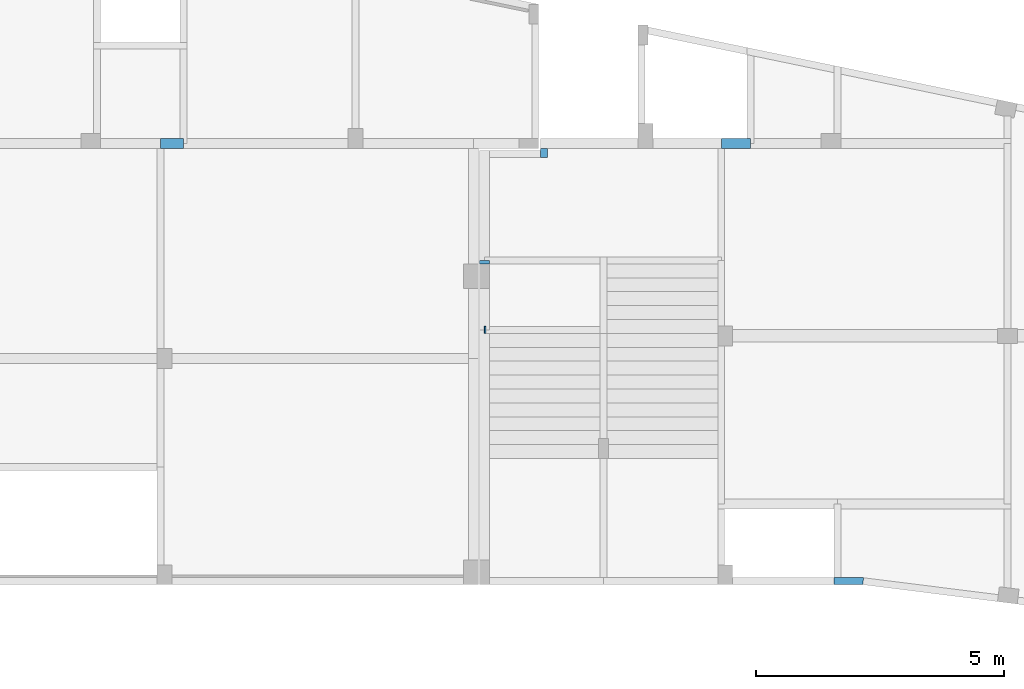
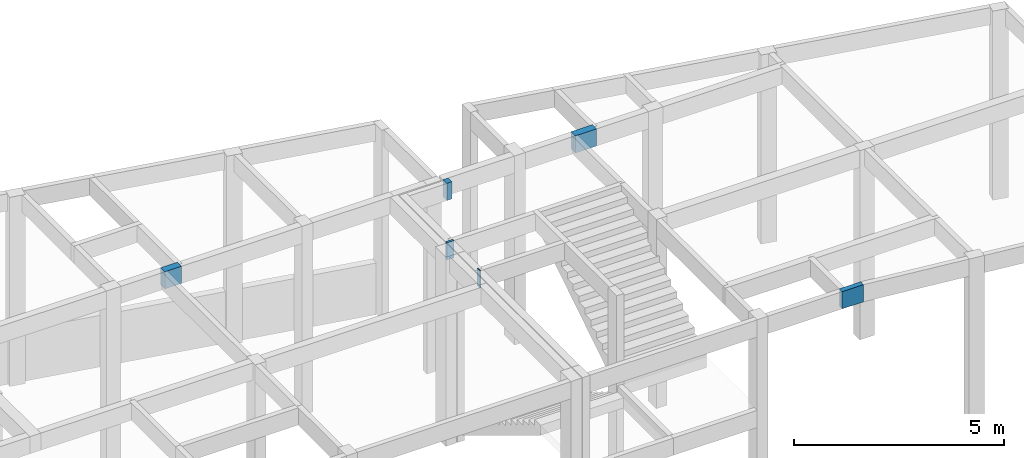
# One storey, part 4 of 8: 6 beams.
"""IFC4 building model written with IfcOpenShell, lengths in centimetres."""

from ifc_helpers import new_model, si_unit, derived_unit, frame, origin, origin_with_axes, origin_2d_with_axis, place, context, project, spatial, rectangle, extrude, clip, halfspace, material, element, save


model = new_model("IFC4")

# Units and contexts
model_context = context("Model", 3, precision=1e-05, world=origin_with_axes(), identifier="Body")
ifc_project = project(units=[si_unit("LENGTHUNIT", "METRE", prefix="CENTI"), si_unit("VOLUMEUNIT", "CUBIC_METRE"), si_unit("AREAUNIT", "SQUARE_METRE"), si_unit("POWERUNIT", "WATT"), si_unit("LUMINOUSFLUXUNIT", "LUMEN"), si_unit("ELECTRICCURRENTUNIT", "AMPERE"), si_unit("PRESSUREUNIT", "PASCAL", prefix="KILO"), si_unit("MASSUNIT", "GRAM", prefix="KILO"), si_unit("PLANEANGLEUNIT", "RADIAN"), derived_unit("VOLUMETRICFLOWRATEUNIT", [(si_unit("LENGTHUNIT", "METRE"), 3), (si_unit("TIMEUNIT", "SECOND"), -1)])], contexts=[model_context])

# Site, building, storey
site_placement = place(None, origin_with_axes())
site = spatial("IfcSite", under=ifc_project, at=site_placement)
building_placement = place(site_placement, origin())
building = spatial("IfcBuilding", under=site, at=building_placement)
placement = place(building_placement, origin_with_axes())
storey_placement = place(placement, frame((0.0, 0.0, 550.0), z_axis=(0.0, 0.0, 1.0), x_axis=(1.0, 0.0, 0.0)))
storey = spatial("IfcBuildingStorey", under=building, at=storey_placement, Name="TÉRREO", CompositionType="ELEMENT", Elevation=550.0)

# Beams
ifc_material = material(Name="Concreto")
beam_1_placement = place(storey_placement, frame((2034.8, -455.9, 0.0), z_axis=(0.0, 0.0, 1.0), x_axis=(1.0, 0.0, 0.0)))
element("IfcBeam", 1, at=beam_1_placement, inside=storey, material=ifc_material, Name="V3", context=model_context, shape_type="SolidModel", body=[
    extrude(rectangle(XDim=20.0, YDim=50.0, at=origin_2d_with_axis()), frame((-23.2, 0.0, -25.0), z_axis=(1.0, 0.0, 0.0), x_axis=(0.0, 1.0, 0.0)), (0.0, 0.0, 1.0), 46.4),
])
beam_2_placement = place(storey_placement, frame((2663.6, -694.6, 0.0), z_axis=(0.0, 0.0, 1.0), x_axis=(1.0, 0.0, 0.0)))
element("IfcBeam", 2, at=beam_2_placement, inside=storey, material=ifc_material, Name="V30", context=model_context, shape_type="SolidModel", body=[
    extrude(rectangle(XDim=20.0, YDim=50.0, at=origin_2d_with_axis()), frame((0.0, -3.5, -25.0), z_axis=(0.0, 1.0, 0.0), x_axis=(1.0, 0.0, 0.0)), (0.0, 0.0, 1.0), 7.0),
])
beam_3_placement = place(storey_placement, frame((2784.0, -474.9, 0.0), z_axis=(0.0, 0.0, 1.0), x_axis=(1.0, 0.0, 0.0)))
element("IfcBeam", 3, at=beam_3_placement, inside=storey, material=ifc_material, Name="V32", context=model_context, shape_type="SolidModel", body=[
    extrude(rectangle(XDim=14.0, YDim=50.0, at=origin_2d_with_axis()), frame((0.0, -9.0, -25.0), z_axis=(0.0, 1.0, 0.0), x_axis=(1.0, 0.0, 0.0)), (0.0, 0.0, 1.0), 18.0),
])
beam_4_placement = place(storey_placement, frame((3397.217338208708, -1337.0556334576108, 0.0), z_axis=(0.0, 0.0, 1.0), x_axis=(1.0, 0.0, 0.0)))
element("IfcBeam", 4, at=beam_4_placement, inside=storey, material=ifc_material, Name="V45", context=model_context, shape_type="Clipping", body=[
    clip(extrude(rectangle(XDim=14.0, YDim=50.0, at=origin_2d_with_axis()), frame((29.621392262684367, 0.005718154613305, -25.0), z_axis=(-1.0, -0.000193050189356, 0.0), x_axis=(-0.000193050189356, 1.0, 0.0)), (0.0, 0.0, 1.0), 59.24008292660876), halfspace(frame((28.745282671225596, -6.994451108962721, 0.0), z_axis=(-0.998053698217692, 0.06236036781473, 0.0), x_axis=(0.0, 0.0, 0.062553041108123)), True)),
])
beam_5_placement = place(storey_placement, frame((3169.8, -455.9, 0.0), z_axis=(0.0, 0.0, 1.0), x_axis=(1.0, 0.0, 0.0)))
element("IfcBeam", 5, at=beam_5_placement, inside=storey, material=ifc_material, Name="V5", context=model_context, shape_type="SolidModel", body=[
    extrude(rectangle(XDim=20.0, YDim=50.0, at=origin_2d_with_axis()), frame((-29.2, 0.0, -25.0), z_axis=(1.0, 0.0, 0.0), x_axis=(0.0, 1.0, 0.0)), (0.0, 0.0, 1.0), 58.4),
])
beam_6_placement = place(storey_placement, frame((2665.1, -831.1, 0.0), z_axis=(0.0, 0.0, 1.0), x_axis=(1.0, 0.0, 0.0)))
element("IfcBeam", 6, at=beam_6_placement, inside=storey, material=ifc_material, Name="V9", context=model_context, shape_type="SolidModel", body=[
    extrude(rectangle(XDim=14.0, YDim=50.0, at=origin_2d_with_axis()), frame((-1.5, 0.0, -25.0), z_axis=(1.0, 0.0, 0.0), x_axis=(0.0, 1.0, 0.0)), (0.0, 0.0, 1.0), 3.0),
])

save(model, "model.ifc")
